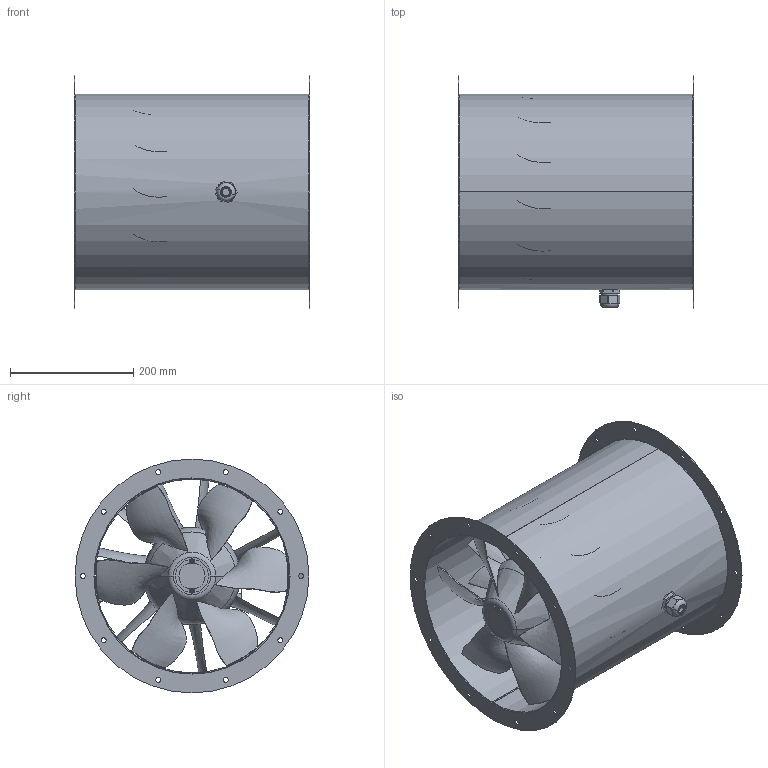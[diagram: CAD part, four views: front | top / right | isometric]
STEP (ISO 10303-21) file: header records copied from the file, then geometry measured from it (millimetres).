
FILE_DESCRIPTION (( 'STEP AP203' ), '1' );
FILE_NAME ('154134-00_AL315D201_step.step', '2020-05-29T10:45:59', ( '' ), ( '' ), 'SwSTEP 2.0', 'SolidWorks 2017', '' );
FILE_SCHEMA (( 'CONFIG_CONTROL_DESIGN' ));
Length unit declared in the file: millimetre
Products named in the file (1): 154134-00_AL315D201_step
Bounding box: 383 x 380 x 380 mm (x, y, z)
Surface area: 1177991.8 mm2 (no closed solid volume)
Topology: 0 solids, 33 shells, 543 faces, 1843 edges, 1294 vertices
Faces by surface type: plane 382, cylinder 95, bspline 35, torus 22, cone 9
Entity records: 233763 total; most frequent: CARTESIAN_POINT 218381, DIRECTION 2877, ORIENTED_EDGE 2829, EDGE_CURVE 1843, VECTOR 1329, LINE 1329, VERTEX_POINT 1294, AXIS2_PLACEMENT_3D 774
